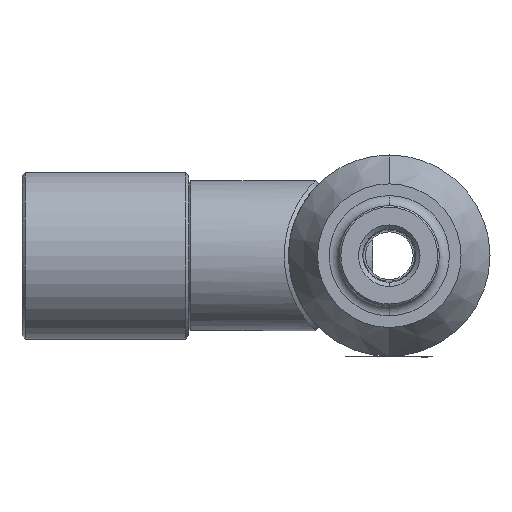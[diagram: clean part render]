
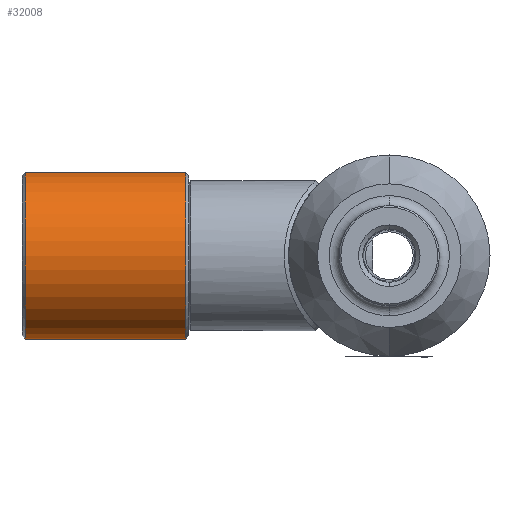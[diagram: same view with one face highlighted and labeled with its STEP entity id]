
A CAD part, front view. The second image highlights one B-rep face of the part: STEP entity #32008.
In plain terms, the highlighted cylindrical face has radius 25 mm (diameter 50 mm), a partial arc.
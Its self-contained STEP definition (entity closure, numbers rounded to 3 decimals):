
#1340 = CARTESIAN_POINT ( 'NONE',  ( 0., 49., 25. ) ) ;
#1568 = ORIENTED_EDGE ( 'NONE', *, *, #36816, .T. ) ;
#3047 = DIRECTION ( 'NONE',  ( 0., 0., 1. ) ) ;
#4673 = DIRECTION ( 'NONE',  ( 0., -1., 0. ) ) ;
#4889 = FACE_OUTER_BOUND ( 'NONE', #23627, .T. ) ;
#7706 = CARTESIAN_POINT ( 'NONE',  ( 0., 1., 0. ) ) ;
#8490 = CARTESIAN_POINT ( 'NONE',  ( 0., 50., -25. ) ) ;
#9170 = EDGE_CURVE ( 'NONE', #10150, #28740, #12489, .T. ) ;
#10150 = VERTEX_POINT ( 'NONE', #28266 ) ;
#12143 = CIRCLE ( 'NONE', #22606, 25. ) ;
#12489 = CIRCLE ( 'NONE', #26194, 25. ) ;
#14338 = CARTESIAN_POINT ( 'NONE',  ( 0., 50., 0. ) ) ;
#14754 = CYLINDRICAL_SURFACE ( 'NONE', #38816, 25. ) ;
#15196 = CARTESIAN_POINT ( 'NONE',  ( 0., 1., -25. ) ) ;
#16901 = ORIENTED_EDGE ( 'NONE', *, *, #34939, .F. ) ;
#20353 = CARTESIAN_POINT ( 'NONE',  ( 0., 50., 25. ) ) ;
#20872 = DIRECTION ( 'NONE',  ( 0., 0., -1. ) ) ;
#21007 = DIRECTION ( 'NONE',  ( 0., -1., 0. ) ) ;
#21597 = ORIENTED_EDGE ( 'NONE', *, *, #9170, .T. ) ;
#22497 = CARTESIAN_POINT ( 'NONE',  ( 0., 49., 0. ) ) ;
#22606 = AXIS2_PLACEMENT_3D ( 'NONE', #22497, #25376, #3047 ) ;
#23627 = EDGE_LOOP ( 'NONE', ( #1568, #39046, #21597, #16901 ) ) ;
#25376 = DIRECTION ( 'NONE',  ( 0., -1., 0. ) ) ;
#26194 = AXIS2_PLACEMENT_3D ( 'NONE', #7706, #29425, #26563 ) ;
#26471 = VECTOR ( 'NONE', #21007, 1000. ) ;
#26563 = DIRECTION ( 'NONE',  ( 0., 0., 1. ) ) ;
#26697 = CARTESIAN_POINT ( 'NONE',  ( 0., 49., -25. ) ) ;
#26712 = DIRECTION ( 'NONE',  ( 0., -1., 0. ) ) ;
#27836 = VECTOR ( 'NONE', #26712, 1000. ) ;
#28266 = CARTESIAN_POINT ( 'NONE',  ( 0., 1., 25. ) ) ;
#28740 = VERTEX_POINT ( 'NONE', #15196 ) ;
#29425 = DIRECTION ( 'NONE',  ( 0., 1., 0. ) ) ;
#30231 = LINE ( 'NONE', #8490, #26471 ) ;
#32008 = ADVANCED_FACE ( 'NONE', ( #4889 ), #14754, .T. ) ;
#34939 = EDGE_CURVE ( 'NONE', #38522, #28740, #30231, .T. ) ;
#35695 = EDGE_CURVE ( 'NONE', #40248, #10150, #38596, .T. ) ;
#36816 = EDGE_CURVE ( 'NONE', #38522, #40248, #12143, .T. ) ;
#38522 = VERTEX_POINT ( 'NONE', #26697 ) ;
#38596 = LINE ( 'NONE', #20353, #27836 ) ;
#38816 = AXIS2_PLACEMENT_3D ( 'NONE', #14338, #4673, #20872 ) ;
#39046 = ORIENTED_EDGE ( 'NONE', *, *, #35695, .T. ) ;
#40248 = VERTEX_POINT ( 'NONE', #1340 ) ;
